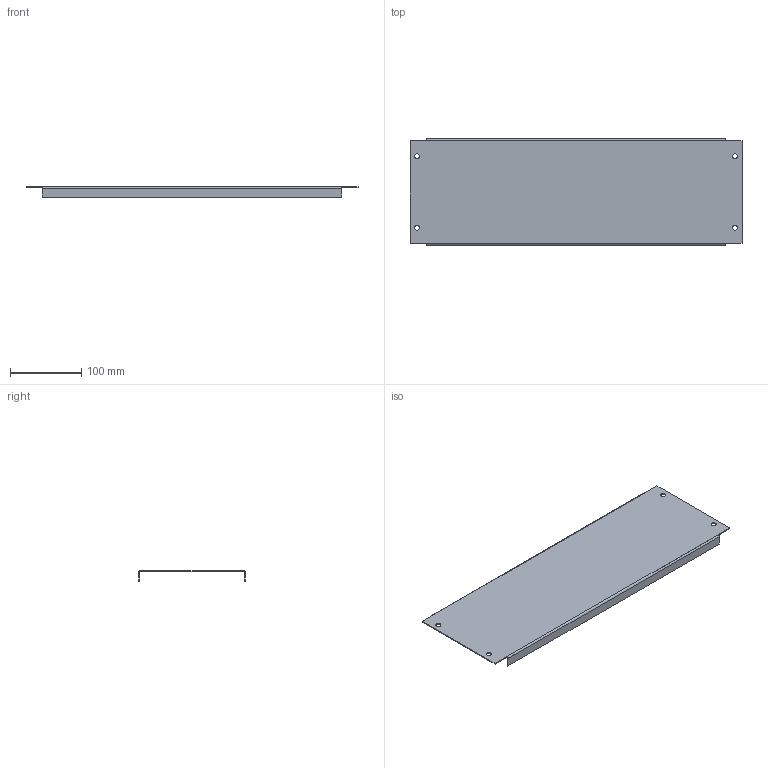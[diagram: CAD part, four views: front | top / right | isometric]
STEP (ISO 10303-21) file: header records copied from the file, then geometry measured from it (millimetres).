
FILE_DESCRIPTION (( 'STEP AP203' ), '1' );
FILE_NAME ('MB 15.50 Ïàíåëü ìîäóëüíàÿ.STEP', '2012-11-21T07:09:14', ( 'system' ), ( '' ), 'SwSTEP 2.0', 'SolidWorks 2012', '' );
FILE_SCHEMA (( 'CONFIG_CONTROL_DESIGN' ));
Length unit declared in the file: millimetre
Products named in the file (1): MB 15.50 Ïàíåëü ìîäóëüíàÿ
Bounding box: 465 x 149 x 15 mm (x, y, z)
Volume: 95792.7 mm3; surface area: 161296.2 mm2
Topology: 1 solids, 1 shells, 34 faces, 80 edges, 48 vertices
Faces by surface type: plane 22, cylinder 12
Entity records: 1053 total; most frequent: DIRECTION 174, CARTESIAN_POINT 163, ORIENTED_EDGE 160, EDGE_CURVE 80, AXIS2_PLACEMENT_3D 59, VECTOR 56, LINE 56, VERTEX_POINT 48
